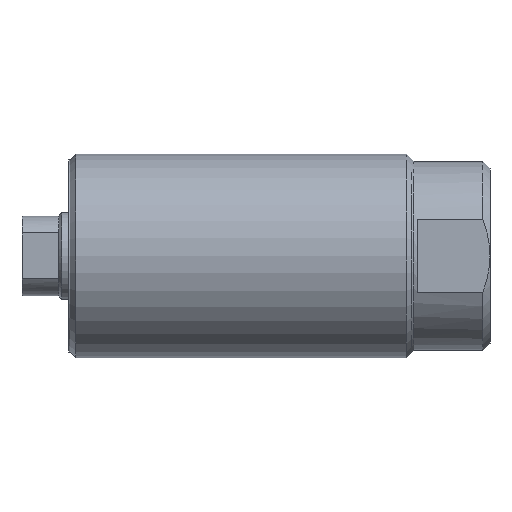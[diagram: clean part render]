
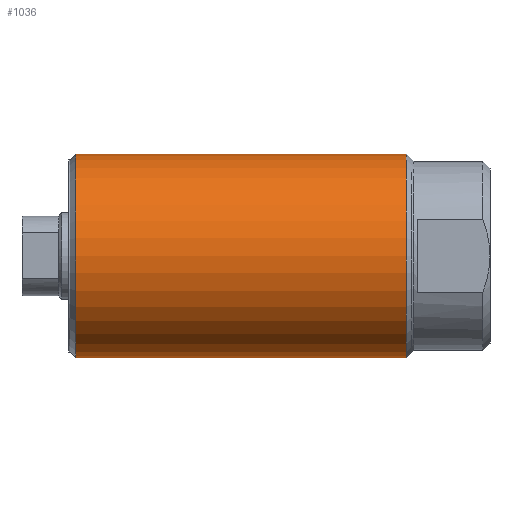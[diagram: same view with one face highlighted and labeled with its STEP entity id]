
A CAD part, top view. The second image highlights one B-rep face of the part: STEP entity #1036.
In plain terms, the highlighted cylindrical face has radius 14 mm (diameter 28 mm), a partial arc.
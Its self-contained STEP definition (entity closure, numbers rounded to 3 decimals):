
#222=CARTESIAN_POINT('',(1.,0.,0.));
#223=DIRECTION('',(-1.,0.,0.));
#224=DIRECTION('',(0.,-1.,0.));
#225=AXIS2_PLACEMENT_3D('',#222,#223,#224);
#227=CARTESIAN_POINT('',(46.5,0.,0.));
#228=DIRECTION('',(1.,0.,0.));
#229=DIRECTION('',(0.,1.,0.));
#230=AXIS2_PLACEMENT_3D('',#227,#228,#229);
#237=DIRECTION('',(-1.,0.,0.));
#238=VECTOR('',#237,45.5);
#239=CARTESIAN_POINT('',(46.5,-14.,0.));
#240=LINE('',#239,#238);
#246=DIRECTION('',(-1.,0.,0.));
#247=VECTOR('',#246,45.5);
#248=CARTESIAN_POINT('',(46.5,14.,0.));
#249=LINE('',#248,#247);
#529=CARTESIAN_POINT('',(46.5,14.,0.));
#531=VERTEX_POINT('',#529);
#533=CARTESIAN_POINT('',(46.5,-14.,0.));
#535=VERTEX_POINT('',#533);
#548=CARTESIAN_POINT('',(1.,14.,0.));
#549=CARTESIAN_POINT('',(1.,-14.,0.));
#550=VERTEX_POINT('',#548);
#551=VERTEX_POINT('',#549);
#1022=CARTESIAN_POINT('',(-2.9,0.,0.));
#1023=DIRECTION('',(1.,0.,0.));
#1024=DIRECTION('',(0.,-1.,0.));
#1025=AXIS2_PLACEMENT_3D('',#1022,#1023,#1024);
#1026=CYLINDRICAL_SURFACE('',#1025,14.);
#1027=ORIENTED_EDGE('',*,*,#1016,.T.);
#1029=ORIENTED_EDGE('',*,*,#1028,.F.);
#1031=ORIENTED_EDGE('',*,*,#1030,.T.);
#1033=ORIENTED_EDGE('',*,*,#1032,.T.);
#1034=EDGE_LOOP('',(#1027,#1029,#1031,#1033));
#1035=FACE_OUTER_BOUND('',#1034,.F.);
#1036=ADVANCED_FACE('',(#1035),#1026,.T.);
#226=CIRCLE('',#225,14.);
#231=CIRCLE('',#230,14.);
#1016=EDGE_CURVE('',#551,#550,#226,.T.);
#1028=EDGE_CURVE('',#531,#550,#249,.T.);
#1030=EDGE_CURVE('',#531,#535,#231,.T.);
#1032=EDGE_CURVE('',#535,#551,#240,.T.);
